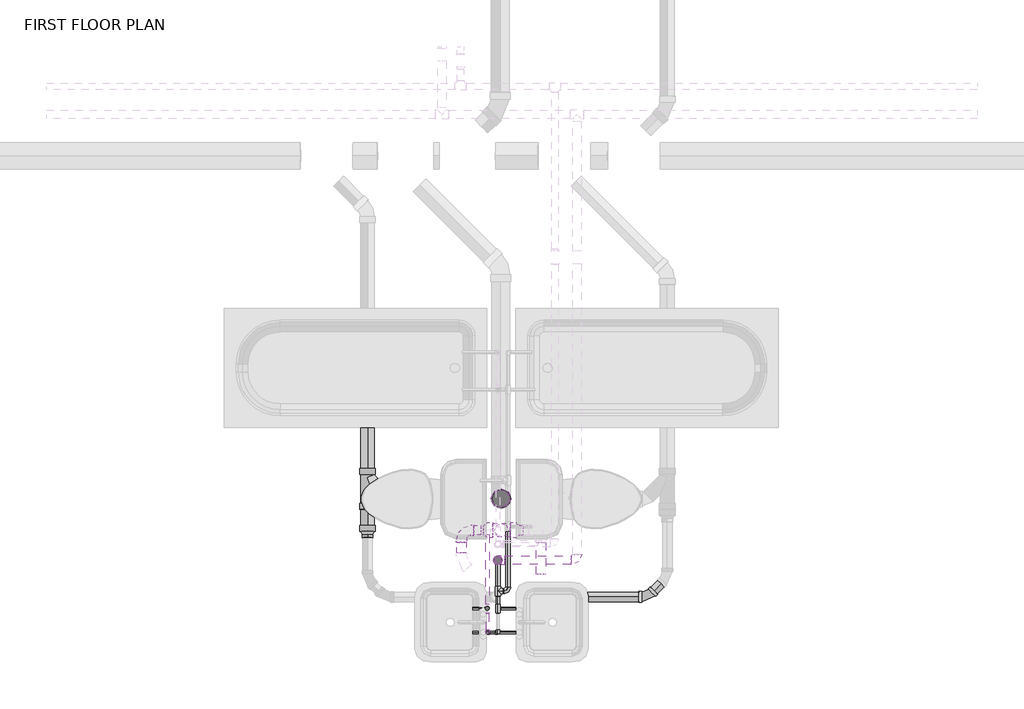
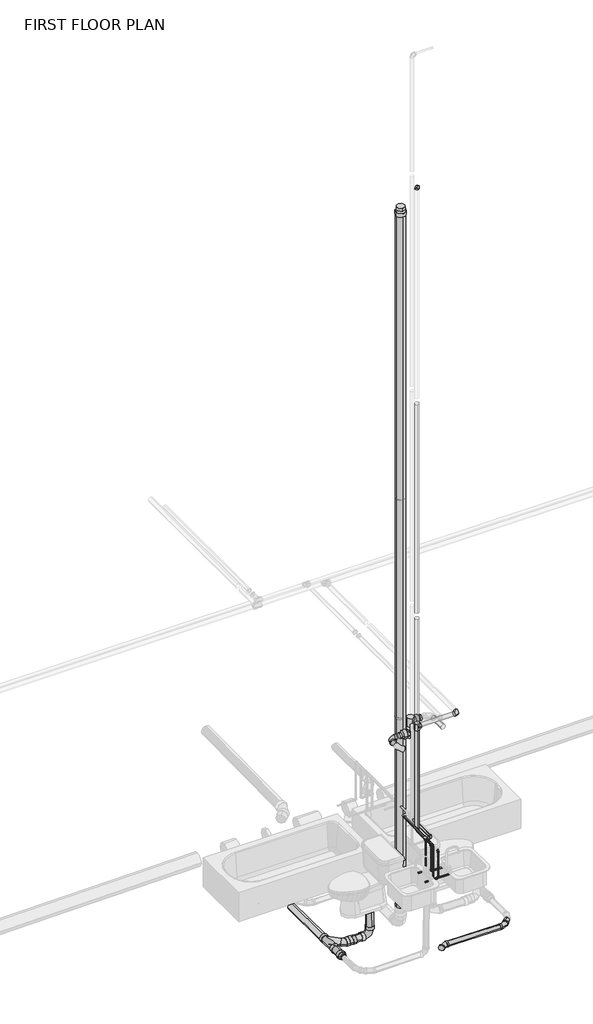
# One storey, part 21 of 29: 33 pipe fittings, 30 pipe segments.
"""IFC4 building model written with IfcOpenShell, lengths in millimetres."""

from ifc_helpers import new_model, si_unit, point, frame, frame_2d, origin, place, context, project, spatial, circle_curve, trimmed, segment, composite_curve, outline, extrude, transform, mapped, element, save
from components import bend_pvc_sch_40_dwv_standard_e6a60135, bend_pvc_sch_40_dwv_standard_f2f5988a, bend_pvc_sch_40_dwv_standard_e264ddd1, bend_pvc_sch_40_dwv_standard_49f8c181, pipe_elbow_copper_k_aad62f2d, pipe_elbow_copper_k_a25a5501, pipe_elbow_copper_k_cd8a373b, pipe_elbow_copper_k_15b800b4, pipe_tee_copper_k_36278b8a, pipe_tee_copper_k_ee363fbf, pipe_tee_copper_k_feafe2f1, pipe_tee_copper_k_8ae7f23d, pipe_tee_standard_047cd2b9, pipe_transition_copper_k_859ff352, pipe_transition_copper_k_a6a91236, pipe_transition_copper_k_b4f16853, pipe_transition_copper_k_5e01dc24, reducer_pvc_sch_40_dwv_standard_464ee0c2, reducer_pvc_sch_40_dwv_standard_80dbeaf5, reducer_pvc_sch_40_dwv_standard_58c00515, standard_544587f6

model = new_model("IFC4")

# Units and contexts
model_context = context("Model", 3, world=origin())
ifc_project = project(units=[si_unit("LENGTHUNIT", "METRE", prefix="MILLI")], contexts=[model_context])

# Site, building, storey
site = spatial("IfcSite", under=ifc_project)
building = spatial("IfcBuilding", under=site)
storey = spatial("IfcBuildingStorey", under=building, Name="FIRST FLOOR PLAN", Elevation=0.0)

# Pipe fittings
placement = place(None, origin())
bend_pvc_sch_40_dwv_standard_shape = bend_pvc_sch_40_dwv_standard_e6a60135(model_context)
element("IfcPipeFitting", 1, ObjectType="Bend - PVC - Sch 40 - DWV : Standard", at=placement, inside=storey, context=model_context, shape_type="MappedRepresentation", body=[
    mapped(bend_pvc_sch_40_dwv_standard_shape, transform((16553.882609, 3320.1599838, -368.5625196), x_axis=(0.0, -5.143823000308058e-07, -0.9999999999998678), y_axis=(-1.0, -5.358148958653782e-09, 0.0), z_axis=(-5.358148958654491e-09, 0.9999999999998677, -5.143823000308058e-07))),
])
bend_pvc_sch_40_dwv_standard_2_shape = bend_pvc_sch_40_dwv_standard_f2f5988a(model_context)
element("IfcPipeFitting", 2, ObjectType="Bend - PVC - Sch 40 - DWV : Standard", at=placement, inside=storey, context=model_context, shape_type="MappedRepresentation", body=[
    mapped(bend_pvc_sch_40_dwv_standard_2_shape, transform((17109.4488422, 2694.6205256, -333.7380933), x_axis=(-0.9999455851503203, 0.0, 0.010432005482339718), y_axis=(-1.6591869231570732e-07, -0.9999999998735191, -1.590390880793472e-05), z_axis=(0.010432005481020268, -1.5904774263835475e-05, 0.9999455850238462))),
])
bend_pvc_sch_40_dwv_standard_3_shape = bend_pvc_sch_40_dwv_standard_e264ddd1(model_context)
element("IfcPipeFitting", 3, ObjectType="Bend - PVC - Sch 40 - DWV : Standard", at=placement, inside=storey, context=model_context, shape_type="MappedRepresentation", body=[
    mapped(bend_pvc_sch_40_dwv_standard_3_shape, transform((17876.748256, 2694.6205256, -341.7430006), x_axis=(-0.7070684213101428, -0.7070684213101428, 0.010416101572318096), y_axis=(0.7070681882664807, -0.7071320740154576, -0.004336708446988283), z_axis=(0.01043190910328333, 0.0042985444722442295, 0.99993634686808))),
])
bend_pvc_sch_40_dwv_standard_4_shape = bend_pvc_sch_40_dwv_standard_49f8c181(model_context)
element("IfcPipeFitting", 4, ObjectType="Bend - PVC - Sch 40 - DWV : Standard", at=placement, inside=storey, context=model_context, shape_type="MappedRepresentation", body=[
    mapped(bend_pvc_sch_40_dwv_standard_4_shape, transform((16687.9084875, 3120.4093278, 2286.0408745), x_axis=(0.0, 0.9999999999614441, -8.78134569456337e-06), y_axis=(-1.0000000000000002, 0.0, 0.0), z_axis=(0.0, 8.78134569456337e-06, 0.9999999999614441))),
])
pipe_elbow_copper_k_shape = pipe_elbow_copper_k_aad62f2d(model_context)
element("IfcPipeFitting", 5, ObjectType="Pipe Elbow : Copper- K", at=placement, inside=storey, context=model_context, shape_type="MappedRepresentation", body=[
    mapped(pipe_elbow_copper_k_shape, transform((16920.4834875, 2468.1949561, 1117.6), x_axis=(0.0, -1.0, 0.0), y_axis=(0.0, 0.0, -1.0), z_axis=(1.0, 0.0, 0.0))),
])
element("IfcPipeFitting", 6, ObjectType="Pipe Elbow : Copper- K", at=placement, inside=storey, context=model_context, shape_type="MappedRepresentation", body=[
    mapped(pipe_elbow_copper_k_shape, transform((16920.4834875, 2468.1949561, 762.0), x_axis=(0.0, 0.0, -1.0), y_axis=(-1.0, 0.0, 0.0), z_axis=(0.0, 1.0, 0.0))),
])
element("IfcPipeFitting", 7, ObjectType="Pipe Elbow : Copper- K", at=placement, inside=storey, context=model_context, shape_type="MappedRepresentation", body=[
    mapped(pipe_elbow_copper_k_shape, transform((16920.4834875, 2620.8535326, 762.0), x_axis=(0.0, 0.0, -1.0), y_axis=(1.0, 0.0, 0.0), z_axis=(0.0, -1.0, 0.0))),
])
element("IfcPipeFitting", 8, ObjectType="Pipe Elbow : Copper- K", at=placement, inside=storey, context=model_context, shape_type="MappedRepresentation", body=[
    mapped(pipe_elbow_copper_k_shape, transform((16852.2209875, 2468.1949561, 1219.2), x_axis=(0.0, -1.0, 0.0), y_axis=(0.0, 0.0, -1.0), z_axis=(1.0, 0.0, 0.0))),
])
element("IfcPipeFitting", 9, ObjectType="Pipe Elbow : Copper- K", at=placement, inside=storey, context=model_context, shape_type="MappedRepresentation", body=[
    mapped(pipe_elbow_copper_k_shape, transform((16852.2209875, 2468.1949561, 762.0), x_axis=(0.0, 0.0, -1.0), y_axis=(1.0, 0.0, 0.0), z_axis=(0.0, -1.0, 0.0))),
])
element("IfcPipeFitting", 10, ObjectType="Pipe Elbow : Copper- K", at=placement, inside=storey, context=model_context, shape_type="MappedRepresentation", body=[
    mapped(pipe_elbow_copper_k_shape, transform((16852.2209875, 2620.8535326, 792.4601563), x_axis=(0.0, 0.0, -1.0), y_axis=(-1.0, 0.0, 0.0), z_axis=(0.0, 1.0, 0.0))),
])
pipe_elbow_copper_k_2_shape = pipe_elbow_copper_k_a25a5501(model_context)
element("IfcPipeFitting", 11, ObjectType="Pipe Elbow : Copper- K", at=placement, inside=storey, context=model_context, shape_type="MappedRepresentation", body=[
    mapped(pipe_elbow_copper_k_2_shape, transform((16983.9834875, 2733.1182853, 1117.6), x_axis=(1.0, 0.0, 0.0), y_axis=(0.0, 1.0, 0.0), z_axis=(0.0, 0.0, 1.0))),
])
element("IfcPipeFitting", 12, ObjectType="Pipe Elbow : Copper- K", at=placement, inside=storey, context=model_context, shape_type="MappedRepresentation", body=[
    mapped(pipe_elbow_copper_k_2_shape, transform((16920.4834875, 2929.398977, 9652.0), x_axis=(0.0, 0.0, 1.0), y_axis=(0.0, -1.0, 0.0), z_axis=(1.0, 0.0, 0.0))),
])
pipe_elbow_copper_k_3_shape = pipe_elbow_copper_k_cd8a373b(model_context)
element("IfcPipeFitting", 13, ObjectType="Pipe Elbow : Copper- K", at=placement, inside=storey, context=model_context, shape_type="MappedRepresentation", body=[
    mapped(pipe_elbow_copper_k_3_shape, transform((16920.4834875, 2929.398977, 1117.6), x_axis=(0.0, 1.0, 0.0), y_axis=(0.0, 0.0, 1.0), z_axis=(1.0, 0.0, 0.0))),
])
pipe_elbow_copper_k_4_shape = pipe_elbow_copper_k_15b800b4(model_context)
element("IfcPipeFitting", 14, ObjectType="Pipe Elbow : Copper- K", at=placement, inside=storey, context=model_context, shape_type="MappedRepresentation", body=[
    mapped(pipe_elbow_copper_k_4_shape, transform((17424.5084875, 2929.8751195, 2490.6882812), x_axis=(0.9999996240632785, 0.0008671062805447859, 0.0), y_axis=(-0.0008671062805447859, 0.9999996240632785, 0.0), z_axis=(0.0, 0.0, 1.0))),
])
pipe_tee_copper_k_shape = pipe_tee_copper_k_36278b8a(model_context)
element("IfcPipeFitting", 15, ObjectType="Pipe Tee : Copper- K", at=placement, inside=storey, context=model_context, shape_type="MappedRepresentation", body=[
    mapped(pipe_tee_copper_k_shape, transform((16920.4834875, 2929.4752425, 2490.6882812), x_axis=(0.0, 5.554300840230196e-05, 0.9999999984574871), y_axis=(-1.0, 0.0, 0.0), z_axis=(0.0, -0.9999999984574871, 5.554300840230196e-05))),
])
pipe_tee_copper_k_2_shape = pipe_tee_copper_k_ee363fbf(model_context)
element("IfcPipeFitting", 16, ObjectType="Pipe Tee : Copper- K", at=placement, inside=storey, context=model_context, shape_type="MappedRepresentation", body=[
    mapped(pipe_tee_copper_k_2_shape, transform((16920.4834875, 2620.8535326, 1117.6), x_axis=(0.0, 1.0, 0.0), y_axis=(0.0, 0.0, 1.0), z_axis=(1.0, 0.0, 0.0))),
])
element("IfcPipeFitting", 17, ObjectType="Pipe Tee : Copper- K", at=placement, inside=storey, context=model_context, shape_type="MappedRepresentation", body=[
    mapped(pipe_tee_copper_k_2_shape, transform((16852.2209875, 2620.8535326, 1219.2), x_axis=(0.0, 1.0, 0.0), y_axis=(0.0, 0.0, 1.0), z_axis=(1.0, 0.0, 0.0))),
])
pipe_tee_copper_k_3_shape = pipe_tee_copper_k_feafe2f1(model_context)
element("IfcPipeFitting", 18, ObjectType="Pipe Tee : Copper- K", at=placement, inside=storey, context=model_context, shape_type="MappedRepresentation", body=[
    mapped(pipe_tee_copper_k_3_shape, transform((16920.4834875, 2733.1182853, 1117.6), x_axis=(0.0, 1.0, 0.0), y_axis=(-1.0, 0.0, 0.0), z_axis=(0.0, 0.0, 1.0))),
])
pipe_tee_copper_k_4_shape = pipe_tee_copper_k_8ae7f23d(model_context)
element("IfcPipeFitting", 19, ObjectType="Pipe Tee : Standard", at=placement, inside=storey, context=model_context, shape_type="MappedRepresentation", body=[
    mapped(pipe_tee_copper_k_4_shape, transform((16944.2702977, 3120.5512471, 2285.9990858), x_axis=(0.0, 0.0, 1.0), y_axis=(-1.0, 0.0, 0.0), z_axis=(0.0, -1.0, 0.0))),
])
pipe_tee_standard_shape = pipe_tee_standard_047cd2b9(model_context)
element("IfcPipeFitting", 20, ObjectType="Pipe Tee : Standard", at=placement, inside=storey, context=model_context, shape_type="MappedRepresentation", body=[
    mapped(pipe_tee_standard_shape, transform((16944.2702977, 3120.5512471, 2438.7627068), x_axis=(0.0, 0.0, 1.0), y_axis=(1.0, 0.0, 0.0), z_axis=(0.0, 1.0, 0.0))),
])
pipe_transition_copper_k_shape = pipe_transition_copper_k_859ff352(model_context)
element("IfcPipeFitting", 21, ObjectType="Pipe Transition : Copper- K", at=placement, inside=storey, context=model_context, shape_type="MappedRepresentation", body=[
    mapped(pipe_transition_copper_k_shape, transform((16920.4834875, 2620.8535326, 1090.6125), x_axis=(0.0, 0.0, -1.0), y_axis=(0.0, 1.0, 0.0), z_axis=(1.0, 0.0, 0.0))),
])
element("IfcPipeFitting", 22, ObjectType="Pipe Transition : Copper- K", at=placement, inside=storey, context=model_context, shape_type="MappedRepresentation", body=[
    mapped(pipe_transition_copper_k_shape, transform((16920.4834875, 2593.8660326, 1117.6), x_axis=(0.0, -1.0, 0.0), y_axis=(1.0, 0.0, 0.0), z_axis=(0.0, 0.0, 1.0))),
])
element("IfcPipeFitting", 23, ObjectType="Pipe Transition : Copper- K", at=placement, inside=storey, context=model_context, shape_type="MappedRepresentation", body=[
    mapped(pipe_transition_copper_k_shape, transform((16852.2209875, 2620.8535326, 1192.2125), x_axis=(0.0, 0.0, -1.0), y_axis=(0.0, -1.0, 0.0), z_axis=(-1.0, 0.0, 0.0))),
])
element("IfcPipeFitting", 24, ObjectType="Pipe Transition : Copper- K", at=placement, inside=storey, context=model_context, shape_type="MappedRepresentation", body=[
    mapped(pipe_transition_copper_k_shape, transform((16852.2209875, 2593.8660326, 1219.2), x_axis=(0.0, -1.0, 0.0), y_axis=(1.0, 0.0, 0.0), z_axis=(0.0, 0.0, 1.0))),
])
pipe_transition_copper_k_2_shape = pipe_transition_copper_k_a6a91236(model_context)
element("IfcPipeFitting", 25, ObjectType="Pipe Transition : Copper- K", at=placement, inside=storey, context=model_context, shape_type="MappedRepresentation", body=[
    mapped(pipe_transition_copper_k_2_shape, transform((16920.4834875, 2929.398977, 9614.69375), x_axis=(0.0, 0.0, 1.0), y_axis=(0.0, 1.0, 0.0), z_axis=(-1.0, 0.0, 0.0))),
])
pipe_transition_copper_k_3_shape = pipe_transition_copper_k_b4f16853(model_context)
element("IfcPipeFitting", 26, ObjectType="Pipe Transition : Copper- K", at=placement, inside=storey, context=model_context, shape_type="MappedRepresentation", body=[
    mapped(pipe_transition_copper_k_3_shape, transform((16920.4834875, 2702.9557853, 1117.6), x_axis=(0.0, -1.0, 0.0), y_axis=(1.0, 0.0, 0.0), z_axis=(0.0, 0.0, 1.0))),
])
pipe_transition_copper_k_4_shape = pipe_transition_copper_k_5e01dc24(model_context)
element("IfcPipeFitting", 27, ObjectType="Pipe Transition : Copper- K", at=placement, inside=storey, context=model_context, shape_type="MappedRepresentation", body=[
    mapped(pipe_transition_copper_k_4_shape, transform((16920.4834875, 2929.4002996, 1141.4111774), x_axis=(0.0, 5.554300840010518e-05, 0.9999999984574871), y_axis=(0.0, 0.9999999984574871, -5.554300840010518e-05), z_axis=(-1.0, 0.0, 0.0))),
])
reducer_pvc_sch_40_dwv_standard_shape = reducer_pvc_sch_40_dwv_standard_464ee0c2(model_context)
element("IfcPipeFitting", 28, ObjectType="Reducer - PVC - Sch 40 - DWV : Standard", at=placement, inside=storey, context=model_context, shape_type="MappedRepresentation", body=[
    mapped(reducer_pvc_sch_40_dwv_standard_shape, transform((16888.7077977, 3120.5512471, 2285.9990858), x_axis=(-1.0, 0.0, 0.0), y_axis=(0.0, -1.0, 0.0), z_axis=(0.0, 0.0, 1.0))),
])
element("IfcPipeFitting", 29, ObjectType="Reducer - PVC - Sch 40 - DWV : Standard", at=placement, inside=storey, context=model_context, shape_type="MappedRepresentation", body=[
    mapped(reducer_pvc_sch_40_dwv_standard_shape, transform((16999.8327408, 3120.5512471, 2438.6831648), x_axis=(0.9999989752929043, 0.0, -0.001431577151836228), y_axis=(0.0, 1.0000000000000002, 0.0), z_axis=(0.001431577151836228, 0.0, 0.9999989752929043))),
])
element("IfcPipeFitting", 30, ObjectType="Reducer - PVC - Sch 40 - DWV : Standard", at=placement, inside=storey, context=model_context, shape_type="MappedRepresentation", body=[
    mapped(reducer_pvc_sch_40_dwv_standard_shape, transform((16087.4645224, 3152.9789417, -368.9795038), x_axis=(0.0, -0.9999457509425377, 0.010416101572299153), y_axis=(1.0, 0.0, 0.0), z_axis=(0.0, 0.010416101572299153, 0.9999457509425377))),
])
reducer_pvc_sch_40_dwv_standard_2_shape = reducer_pvc_sch_40_dwv_standard_80dbeaf5(model_context)
element("IfcPipeFitting", 31, ObjectType="Reducer - PVC - Sch 40 - DWV : Standard", at=placement, inside=storey, context=model_context, shape_type="MappedRepresentation", body=[
    mapped(reducer_pvc_sch_40_dwv_standard_2_shape, transform((16285.0912017, 3320.1599639, -368.662361), x_axis=(0.9999457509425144, 2.1621181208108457e-07, 0.01041610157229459), y_axis=(0.00010827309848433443, 0.9999457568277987, -0.010414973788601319), z_axis=(-0.010415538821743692, 0.010415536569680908, 0.9998915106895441))),
])
reducer_pvc_sch_40_dwv_standard_3_shape = reducer_pvc_sch_40_dwv_standard_58c00515(model_context)
element("IfcPipeFitting", 32, ObjectType="Reducer - PVC - Sch 40 - DWV : Standard", at=placement, inside=storey, context=model_context, shape_type="MappedRepresentation", body=[
    mapped(reducer_pvc_sch_40_dwv_standard_3_shape, transform((16941.9266198, 3321.8387881, 9032.4261106), x_axis=(6.185067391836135e-08, 0.0, 0.9999999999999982), y_axis=(-0.9999999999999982, 0.0, 6.185067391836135e-08), z_axis=(0.0, -1.0, 0.0))),
])
standard_shape = standard_544587f6(model_context)
element("IfcPipeFitting", 33, ObjectType="GES Wye Combination with 8th Bend - PVC - Sch 40 - DWV : Standard", at=placement, inside=storey, context=model_context, shape_type="MappedRepresentation", body=[
    mapped(standard_shape, transform((16087.4645224, 3320.1599211, -370.7209723), x_axis=(0.0, -0.9999457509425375, 0.010416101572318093), y_axis=(-0.9999457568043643, -0.00010848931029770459, -0.010414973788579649), z_axis=(0.010415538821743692, -0.010415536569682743, -0.999891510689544))),
])

# Pipe segments
element("IfcPipeSegment", 34, ObjectType="Copper", at=placement, inside=storey, context=model_context, shape_type="SweptSolid", body=[
    extrude(outline(composite_curve([segment(trimmed(circle_curve(frame_2d((0.0, 26.9875)), 26.9875), [point((-26.9875, 26.9875))], [point((0.0, 53.975))], False, "CARTESIAN"), True, "CONTINUOUS"), segment(trimmed(circle_curve(frame_2d((0.0, 26.9875)), 26.9875), [point((0.0, 53.975))], [point((26.9874999, 26.9875))], False, "CARTESIAN"), True, "CONTINUOUS"), segment(trimmed(circle_curve(frame_2d((0.0, 26.9875)), 26.9875), [point((26.9874999, 26.9875))], [point((0.0, 0.0))], False, "CARTESIAN"), True, "CONTINUOUS"), segment(trimmed(circle_curve(frame_2d((0.0, 26.9875)), 26.9875), [point((0.0, 0.0))], [point((-26.9875, 26.9875))], False, "CARTESIAN"), True, "CONTINUOUS")], self_intersect=False)), frame((16963.3459875, 2929.4752425, 2463.7007812), z_axis=(0.9999996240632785, 0.0008671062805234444, 0.0), x_axis=(-0.0008671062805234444, 0.9999996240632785, 0.0)), (0.0, 0.0, 1.0), 424.6818199),
])
element("IfcPipeSegment", 35, ObjectType="Copper", at=placement, inside=storey, context=model_context, shape_type="SweptSolid", body=[
    extrude(outline(composite_curve([segment(trimmed(circle_curve(frame_2d((2468.1949561, 762.0)), 7.9375), [point((2476.1324561, 762.0))], [point((2468.1949561, 754.0625))], False, "CARTESIAN"), True, "CONTINUOUS"), segment(trimmed(circle_curve(frame_2d((2468.1949561, 762.0)), 7.9375), [point((2468.1949561, 754.0625))], [point((2460.2574561, 762.0))], False, "CARTESIAN"), True, "CONTINUOUS"), segment(trimmed(circle_curve(frame_2d((2468.1949561, 762.0)), 7.9375), [point((2460.2574561, 762.0))], [point((2468.1949561, 769.9375))], False, "CARTESIAN"), True, "CONTINUOUS"), segment(trimmed(circle_curve(frame_2d((2468.1949561, 762.0)), 7.9375), [point((2468.1949561, 769.9375))], [point((2476.1324561, 762.0))], False, "CARTESIAN"), True, "CONTINUOUS")], self_intersect=False)), frame((16758.5584875, 0.0, 0.0), z_axis=(1.0, 0.0, 0.0), x_axis=(0.0, 1.0, 0.0)), (0.0, 0.0, 1.0), 144.4625),
])
element("IfcPipeSegment", 36, ObjectType="Copper", at=placement, inside=storey, context=model_context, shape_type="SweptSolid", body=[
    extrude(outline(composite_curve([segment(trimmed(circle_curve(frame_2d((16920.4834875, 2468.1949561)), 7.9375), [point((16928.4209875, 2468.1949561))], [point((16920.4834875, 2460.2574561))], False, "CARTESIAN"), True, "CONTINUOUS"), segment(trimmed(circle_curve(frame_2d((16920.4834875, 2468.1949561)), 7.9375), [point((16920.4834875, 2460.2574561))], [point((16912.5459875, 2468.1949561))], False, "CARTESIAN"), True, "CONTINUOUS"), segment(trimmed(circle_curve(frame_2d((16920.4834875, 2468.1949561)), 7.9375), [point((16912.5459875, 2468.1949561))], [point((16920.4834875, 2476.1324561))], False, "CARTESIAN"), True, "CONTINUOUS"), segment(trimmed(circle_curve(frame_2d((16920.4834875, 2468.1949561)), 7.9375), [point((16920.4834875, 2476.1324561))], [point((16928.4209875, 2468.1949561))], False, "CARTESIAN"), True, "CONTINUOUS")], self_intersect=False)), frame((0.0, 0.0, 779.4625), z_axis=(0.0, 0.0, 1.0), x_axis=(1.0, 0.0, 0.0)), (0.0, 0.0, 1.0), 320.675),
])
element("IfcPipeSegment", 37, ObjectType="Copper", at=placement, inside=storey, context=model_context, shape_type="SweptSolid", body=[
    extrude(outline(composite_curve([segment(trimmed(circle_curve(frame_2d((2620.8535326, 762.0)), 7.9375), [point((2612.9160326, 762.0))], [point((2620.8535326, 769.9375))], False, "CARTESIAN"), True, "CONTINUOUS"), segment(trimmed(circle_curve(frame_2d((2620.8535326, 762.0)), 7.9375), [point((2620.8535326, 769.9375))], [point((2628.7910326, 762.0))], False, "CARTESIAN"), True, "CONTINUOUS"), segment(trimmed(circle_curve(frame_2d((2620.8535326, 762.0)), 7.9375), [point((2628.7910326, 762.0))], [point((2620.8535326, 754.0625))], False, "CARTESIAN"), True, "CONTINUOUS"), segment(trimmed(circle_curve(frame_2d((2620.8535326, 762.0)), 7.9375), [point((2620.8535326, 754.0625))], [point((2612.9160326, 762.0))], False, "CARTESIAN"), True, "CONTINUOUS")], self_intersect=False)), frame((16937.9459875, 0.0, 0.0), z_axis=(1.0, 0.0, 0.0), x_axis=(0.0, 1.0, 0.0)), (0.0, 0.0, 1.0), 133.35),
])
element("IfcPipeSegment", 38, ObjectType="Copper", at=placement, inside=storey, context=model_context, shape_type="SweptSolid", body=[
    extrude(outline(composite_curve([segment(trimmed(circle_curve(frame_2d((16920.4834875, 2620.8535326)), 7.9375), [point((16928.4209875, 2620.8535326))], [point((16920.4834875, 2612.9160326))], False, "CARTESIAN"), True, "CONTINUOUS"), segment(trimmed(circle_curve(frame_2d((16920.4834875, 2620.8535326)), 7.9375), [point((16920.4834875, 2612.9160326))], [point((16912.5459875, 2620.8535326))], False, "CARTESIAN"), True, "CONTINUOUS"), segment(trimmed(circle_curve(frame_2d((16920.4834875, 2620.8535326)), 7.9375), [point((16912.5459875, 2620.8535326))], [point((16920.4834875, 2628.7910326))], False, "CARTESIAN"), True, "CONTINUOUS"), segment(trimmed(circle_curve(frame_2d((16920.4834875, 2620.8535326)), 7.9375), [point((16920.4834875, 2628.7910326))], [point((16928.4209875, 2620.8535326))], False, "CARTESIAN"), True, "CONTINUOUS")], self_intersect=False)), frame((0.0, 0.0, 779.4625), z_axis=(0.0, 0.0, 1.0), x_axis=(1.0, 0.0, 0.0)), (0.0, 0.0, 1.0), 305.59375),
])
element("IfcPipeSegment", 39, ObjectType="Copper", at=placement, inside=storey, context=model_context, shape_type="SweptSolid", body=[
    extrude(outline(composite_curve([segment(trimmed(circle_curve(frame_2d((1117.6, 16920.4834875)), 11.1125), [point((1117.6, 16909.3709875))], [point((1106.4875, 16920.4834875))], False, "CARTESIAN"), True, "CONTINUOUS"), segment(trimmed(circle_curve(frame_2d((1117.6, 16920.4834875)), 11.1125), [point((1106.4875, 16920.4834875))], [point((1117.6, 16931.5959875))], False, "CARTESIAN"), True, "CONTINUOUS"), segment(trimmed(circle_curve(frame_2d((1117.6, 16920.4834875)), 11.1125), [point((1117.6, 16931.5959875))], [point((1128.7125, 16920.4834875))], False, "CARTESIAN"), True, "CONTINUOUS"), segment(trimmed(circle_curve(frame_2d((1117.6, 16920.4834875)), 11.1125), [point((1128.7125, 16920.4834875))], [point((1117.6, 16909.3709875))], False, "CARTESIAN"), True, "CONTINUOUS")], self_intersect=False)), frame((0.0, 2647.8410326, 0.0), z_axis=(0.0, 1.0, 0.0), x_axis=(0.0, 0.0, 1.0)), (0.0, 0.0, 1.0), 47.9710027),
])
element("IfcPipeSegment", 40, ObjectType="Copper", at=placement, inside=storey, context=model_context, shape_type="SweptSolid", body=[
    extrude(outline(composite_curve([segment(trimmed(circle_curve(frame_2d((1219.2, 16852.2209875)), 7.9375), [point((1219.2, 16844.2834875))], [point((1211.2625, 16852.2209875))], False, "CARTESIAN"), True, "CONTINUOUS"), segment(trimmed(circle_curve(frame_2d((1219.2, 16852.2209875)), 7.9375), [point((1211.2625, 16852.2209875))], [point((1219.2, 16860.1584875))], False, "CARTESIAN"), True, "CONTINUOUS"), segment(trimmed(circle_curve(frame_2d((1219.2, 16852.2209875)), 7.9375), [point((1219.2, 16860.1584875))], [point((1227.1375, 16852.2209875))], False, "CARTESIAN"), True, "CONTINUOUS"), segment(trimmed(circle_curve(frame_2d((1219.2, 16852.2209875)), 7.9375), [point((1227.1375, 16852.2209875))], [point((1219.2, 16844.2834875))], False, "CARTESIAN"), True, "CONTINUOUS")], self_intersect=False)), frame((0.0, 2485.6574561, 0.0), z_axis=(0.0, 1.0, 0.0), x_axis=(0.0, 0.0, 1.0)), (0.0, 0.0, 1.0), 102.6523264),
])
element("IfcPipeSegment", 41, ObjectType="Copper", at=placement, inside=storey, context=model_context, shape_type="SweptSolid", body=[
    extrude(outline(composite_curve([segment(trimmed(circle_curve(frame_2d((2468.1949561, 762.0)), 7.9375), [point((2460.2574561, 762.0))], [point((2468.1949561, 769.9375))], False, "CARTESIAN"), True, "CONTINUOUS"), segment(trimmed(circle_curve(frame_2d((2468.1949561, 762.0)), 7.9375), [point((2468.1949561, 769.9375))], [point((2476.1324561, 762.0))], False, "CARTESIAN"), True, "CONTINUOUS"), segment(trimmed(circle_curve(frame_2d((2468.1949561, 762.0)), 7.9375), [point((2476.1324561, 762.0))], [point((2468.1949561, 754.0625))], False, "CARTESIAN"), True, "CONTINUOUS"), segment(trimmed(circle_curve(frame_2d((2468.1949561, 762.0)), 7.9375), [point((2468.1949561, 754.0625))], [point((2460.2574561, 762.0))], False, "CARTESIAN"), True, "CONTINUOUS")], self_intersect=False)), frame((16869.6834875, 0.0, 0.0), z_axis=(1.0, 0.0, 0.0), x_axis=(0.0, 1.0, 0.0)), (0.0, 0.0, 1.0), 192.0875),
])
element("IfcPipeSegment", 42, ObjectType="Copper", at=placement, inside=storey, context=model_context, shape_type="SweptSolid", body=[
    extrude(outline(composite_curve([segment(trimmed(circle_curve(frame_2d((16852.2209875, 2468.1949561)), 7.9375), [point((16860.1584875, 2468.1949561))], [point((16852.2209875, 2460.2574561))], False, "CARTESIAN"), True, "CONTINUOUS"), segment(trimmed(circle_curve(frame_2d((16852.2209875, 2468.1949561)), 7.9375), [point((16852.2209875, 2460.2574561))], [point((16844.2834875, 2468.1949561))], False, "CARTESIAN"), True, "CONTINUOUS"), segment(trimmed(circle_curve(frame_2d((16852.2209875, 2468.1949561)), 7.9375), [point((16844.2834875, 2468.1949561))], [point((16852.2209875, 2476.1324561))], False, "CARTESIAN"), True, "CONTINUOUS"), segment(trimmed(circle_curve(frame_2d((16852.2209875, 2468.1949561)), 7.9375), [point((16852.2209875, 2476.1324561))], [point((16860.1584875, 2468.1949561))], False, "CARTESIAN"), True, "CONTINUOUS")], self_intersect=False)), frame((0.0, 0.0, 779.4625), z_axis=(0.0, 0.0, 1.0), x_axis=(1.0, 0.0, 0.0)), (0.0, 0.0, 1.0), 422.275),
])
element("IfcPipeSegment", 43, ObjectType="Copper", at=placement, inside=storey, context=model_context, shape_type="SweptSolid", body=[
    extrude(outline(composite_curve([segment(trimmed(circle_curve(frame_2d((2620.8535326, 792.4601562)), 7.9375), [point((2628.7910326, 792.4601562))], [point((2620.8535326, 784.5226562))], False, "CARTESIAN"), True, "CONTINUOUS"), segment(trimmed(circle_curve(frame_2d((2620.8535326, 792.4601562)), 7.9375), [point((2620.8535326, 784.5226562))], [point((2612.9160326, 792.4601562))], False, "CARTESIAN"), True, "CONTINUOUS"), segment(trimmed(circle_curve(frame_2d((2620.8535326, 792.4601562)), 7.9375), [point((2612.9160326, 792.4601562))], [point((2620.8535326, 800.3976562))], False, "CARTESIAN"), True, "CONTINUOUS"), segment(trimmed(circle_curve(frame_2d((2620.8535326, 792.4601562)), 7.9375), [point((2620.8535326, 800.3976562))], [point((2628.7910326, 792.4601562))], False, "CARTESIAN"), True, "CONTINUOUS")], self_intersect=False)), frame((16758.5584875, 0.0, 0.0), z_axis=(1.0, 0.0, 0.0), x_axis=(0.0, 1.0, 0.0)), (0.0, 0.0, 1.0), 76.2),
])
element("IfcPipeSegment", 44, ObjectType="Copper", at=placement, inside=storey, context=model_context, shape_type="SweptSolid", body=[
    extrude(outline(composite_curve([segment(trimmed(circle_curve(frame_2d((16852.2209875, 2620.8535326)), 7.9375), [point((16860.1584875, 2620.8535326))], [point((16852.2209875, 2612.9160326))], False, "CARTESIAN"), True, "CONTINUOUS"), segment(trimmed(circle_curve(frame_2d((16852.2209875, 2620.8535326)), 7.9375), [point((16852.2209875, 2612.9160326))], [point((16844.2834875, 2620.8535326))], False, "CARTESIAN"), True, "CONTINUOUS"), segment(trimmed(circle_curve(frame_2d((16852.2209875, 2620.8535326)), 7.9375), [point((16844.2834875, 2620.8535326))], [point((16852.2209875, 2628.7910326))], False, "CARTESIAN"), True, "CONTINUOUS"), segment(trimmed(circle_curve(frame_2d((16852.2209875, 2620.8535326)), 7.9375), [point((16852.2209875, 2628.7910326))], [point((16860.1584875, 2620.8535326))], False, "CARTESIAN"), True, "CONTINUOUS")], self_intersect=False)), frame((0.0, 0.0, 809.9226562), z_axis=(0.0, 0.0, 1.0), x_axis=(1.0, 0.0, 0.0)), (0.0, 0.0, 1.0), 376.7335937),
])
element("IfcPipeSegment", 45, ObjectType="Copper", at=placement, inside=storey, context=model_context, shape_type="SweptSolid", body=[
    extrude(outline(composite_curve([segment(trimmed(circle_curve(frame_2d((1219.2, 16852.2209875)), 11.1125), [point((1219.2, 16841.1084875))], [point((1208.0875, 16852.2209875))], False, "CARTESIAN"), True, "CONTINUOUS"), segment(trimmed(circle_curve(frame_2d((1219.2, 16852.2209875)), 11.1125), [point((1208.0875, 16852.2209875))], [point((1219.2, 16863.3334875))], False, "CARTESIAN"), True, "CONTINUOUS"), segment(trimmed(circle_curve(frame_2d((1219.2, 16852.2209875)), 11.1125), [point((1219.2, 16863.3334875))], [point((1230.3125, 16852.2209875))], False, "CARTESIAN"), True, "CONTINUOUS"), segment(trimmed(circle_curve(frame_2d((1219.2, 16852.2209875)), 11.1125), [point((1230.3125, 16852.2209875))], [point((1219.2, 16841.1084875))], False, "CARTESIAN"), True, "CONTINUOUS")], self_intersect=False)), frame((0.0, 2647.8410326, 0.0), z_axis=(0.0, 1.0, 0.0), x_axis=(0.0, 0.0, 1.0)), (0.0, 0.0, 1.0), 446.7666062),
])
element("IfcPipeSegment", 46, ObjectType="Copper", at=placement, inside=storey, context=model_context, shape_type="SweptSolid", body=[
    extrude(outline(composite_curve([segment(trimmed(circle_curve(frame_2d((2733.1182853, 1117.6)), 14.2875), [point((2718.8307853, 1117.6))], [point((2733.1182853, 1131.8875))], False, "CARTESIAN"), True, "CONTINUOUS"), segment(trimmed(circle_curve(frame_2d((2733.1182853, 1117.6)), 14.2875), [point((2733.1182853, 1131.8875))], [point((2747.4057853, 1117.6))], False, "CARTESIAN"), True, "CONTINUOUS"), segment(trimmed(circle_curve(frame_2d((2733.1182853, 1117.6)), 14.2875), [point((2747.4057853, 1117.6))], [point((2733.1182853, 1103.3125))], False, "CARTESIAN"), True, "CONTINUOUS"), segment(trimmed(circle_curve(frame_2d((2733.1182853, 1117.6)), 14.2875), [point((2733.1182853, 1103.3125))], [point((2718.8307853, 1117.6))], False, "CARTESIAN"), True, "CONTINUOUS")], self_intersect=False)), frame((16950.6459875, 0.0, 0.0), z_axis=(1.0, 0.0, 0.0), x_axis=(0.0, 1.0, 0.0)), (0.0, 0.0, 1.0), 9.525),
])
element("IfcPipeSegment", 47, ObjectType="Copper", at=placement, inside=storey, context=model_context, shape_type="SweptSolid", body=[
    extrude(outline(composite_curve([segment(trimmed(circle_curve(frame_2d((1117.6, 16920.4834875)), 14.2875), [point((1117.6, 16906.1959875))], [point((1103.3125, 16920.4834875))], False, "CARTESIAN"), True, "CONTINUOUS"), segment(trimmed(circle_curve(frame_2d((1117.6, 16920.4834875)), 14.2875), [point((1103.3125, 16920.4834875))], [point((1117.6, 16934.7709875))], False, "CARTESIAN"), True, "CONTINUOUS"), segment(trimmed(circle_curve(frame_2d((1117.6, 16920.4834875)), 14.2875), [point((1117.6, 16934.7709875))], [point((1131.8875, 16920.4834875))], False, "CARTESIAN"), True, "CONTINUOUS"), segment(trimmed(circle_curve(frame_2d((1117.6, 16920.4834875)), 14.2875), [point((1131.8875, 16920.4834875))], [point((1117.6, 16906.1959875))], False, "CARTESIAN"), True, "CONTINUOUS")], self_intersect=False)), frame((0.0, 2763.2807853, 0.0), z_axis=(0.0, 1.0, 0.0), x_axis=(0.0, 0.0, 1.0)), (0.0, 0.0, 1.0), 142.3070143),
])
element("IfcPipeSegment", 48, ObjectType="Copper", at=placement, inside=storey, context=model_context, shape_type="SweptSolid", body=[
    extrude(outline(composite_curve([segment(trimmed(circle_curve(frame_2d((1117.6, 16983.9834875)), 14.2875), [point((1117.6, 16998.2709875))], [point((1131.8875, 16983.9834875))], False, "CARTESIAN"), True, "CONTINUOUS"), segment(trimmed(circle_curve(frame_2d((1117.6, 16983.9834875)), 14.2875), [point((1131.8875, 16983.9834875))], [point((1117.6, 16969.6959875))], False, "CARTESIAN"), True, "CONTINUOUS"), segment(trimmed(circle_curve(frame_2d((1117.6, 16983.9834875)), 14.2875), [point((1117.6, 16969.6959875))], [point((1103.3125, 16983.9834875))], False, "CARTESIAN"), True, "CONTINUOUS"), segment(trimmed(circle_curve(frame_2d((1117.6, 16983.9834875)), 14.2875), [point((1103.3125, 16983.9834875))], [point((1117.6, 16998.2709875))], False, "CARTESIAN"), True, "CONTINUOUS")], self_intersect=False)), frame((0.0, 2756.9307853, 0.0), z_axis=(0.0, 1.0, 0.0), x_axis=(0.0, 0.0, 1.0)), (0.0, 0.0, 1.0), 357.7813964),
])
element("IfcPipeSegment", 49, ObjectType="Copper", at=placement, inside=storey, context=model_context, shape_type="SweptSolid", body=[
    extrude(outline(composite_curve([segment(trimmed(circle_curve(frame_2d((16920.4834875, 2929.398977)), 26.9875), [point((16893.4959875, 2929.398977))], [point((16920.4834875, 2956.386477))], False, "CARTESIAN"), True, "CONTINUOUS"), segment(trimmed(circle_curve(frame_2d((16920.4834875, 2929.398977)), 26.9875), [point((16920.4834875, 2956.386477))], [point((16947.4709875, 2929.398977))], False, "CARTESIAN"), True, "CONTINUOUS"), segment(trimmed(circle_curve(frame_2d((16920.4834875, 2929.398977)), 26.9875), [point((16947.4709875, 2929.398977))], [point((16920.4834875, 2902.411477))], False, "CARTESIAN"), True, "CONTINUOUS"), segment(trimmed(circle_curve(frame_2d((16920.4834875, 2929.398977)), 26.9875), [point((16920.4834875, 2902.411477))], [point((16893.4959875, 2929.398977))], False, "CARTESIAN"), True, "CONTINUOUS")], self_intersect=False)), frame((0.0, 0.0, 4005.2625), z_axis=(0.0, 0.0, 1.0), x_axis=(1.0, 0.0, 0.0)), (0.0, 0.0, 1.0), 2759.075),
])
element("IfcPipeSegment", 50, ObjectType="Copper", at=placement, inside=storey, context=model_context, shape_type="SweptSolid", body=[
    extrude(outline(composite_curve([segment(trimmed(circle_curve(frame_2d((0.0, 26.9874999)), 26.9875), [point((-26.9875, 26.9874999))], [point((0.0, 53.975))], False, "CARTESIAN"), True, "CONTINUOUS"), segment(trimmed(circle_curve(frame_2d((0.0, 26.9874999)), 26.9875), [point((0.0, 53.975))], [point((26.9875, 26.9874999))], False, "CARTESIAN"), True, "CONTINUOUS"), segment(trimmed(circle_curve(frame_2d((0.0, 26.9874999)), 26.9875), [point((26.9875, 26.9874999))], [point((0.0, 0.0))], False, "CARTESIAN"), True, "CONTINUOUS"), segment(trimmed(circle_curve(frame_2d((0.0, 26.9874999)), 26.9875), [point((0.0, 0.0))], [point((-26.9875, 26.9874999))], False, "CARTESIAN"), True, "CONTINUOUS")], self_intersect=False)), frame((16920.4834875, 2902.4131744, 1148.1595513), z_axis=(0.0, 5.554300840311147e-05, 0.9999999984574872), x_axis=(1.0, 0.0, 0.0)), (0.0, 0.0, 1.0), 1299.6677309),
])
element("IfcPipeSegment", 51, ObjectType="Copper", at=placement, inside=storey, context=model_context, shape_type="SweptSolid", body=[
    extrude(outline(composite_curve([segment(trimmed(circle_curve(frame_2d((0.0, 26.9875)), 26.9875), [point((-26.9875, 26.9875))], [point((0.0, 53.9750001))], False, "CARTESIAN"), True, "CONTINUOUS"), segment(trimmed(circle_curve(frame_2d((0.0, 26.9875)), 26.9875), [point((0.0, 53.9750001))], [point((26.9875, 26.9875))], False, "CARTESIAN"), True, "CONTINUOUS"), segment(trimmed(circle_curve(frame_2d((0.0, 26.9875)), 26.9875), [point((26.9875, 26.9875))], [point((0.0, 0.0))], False, "CARTESIAN"), True, "CONTINUOUS"), segment(trimmed(circle_curve(frame_2d((0.0, 26.9875)), 26.9875), [point((0.0, 0.0))], [point((-26.9875, 26.9875))], False, "CARTESIAN"), True, "CONTINUOUS")], self_intersect=False)), frame((16920.4834875, 2902.4901232, 2533.5492498), z_axis=(0.0, -5.6743809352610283e-05, 0.99999999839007), x_axis=(1.0, 0.0, 0.0)), (0.0, 0.0, 1.0), 1385.986721),
])
element("IfcPipeSegment", 52, ObjectType="PVC - SAN/STORM", at=placement, inside=storey, context=model_context, shape_type="SweptSolid", body=[
    extrude(outline(composite_curve([segment(trimmed(circle_curve(frame_2d((0.0, -30.1625)), 30.1625), [point((0.0, -60.325))], [point((-30.1625001, -30.1625))], False, "CARTESIAN"), True, "CONTINUOUS"), segment(trimmed(circle_curve(frame_2d((0.0, -30.1625)), 30.1625), [point((-30.1625001, -30.1625))], [point((0.0, 0.0))], False, "CARTESIAN"), True, "CONTINUOUS"), segment(trimmed(circle_curve(frame_2d((0.0, -30.1625)), 30.1625), [point((0.0, 0.0))], [point((30.1625, -30.1625))], False, "CARTESIAN"), True, "CONTINUOUS"), segment(trimmed(circle_curve(frame_2d((0.0, -30.1625)), 30.1625), [point((30.1625, -30.1625))], [point((0.0, -60.325))], False, "CARTESIAN"), True, "CONTINUOUS")], self_intersect=False)), frame((17819.6013659, 2724.7830256, -341.1468114), z_axis=(-0.9999455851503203, 0.0, 0.010432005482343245), x_axis=(0.010432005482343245, 0.0, 0.9999455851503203)), (0.0, 0.0, 1.0), 653.0411686),
])
element("IfcPipeSegment", 53, ObjectType="PVC - SAN/STORM", at=placement, inside=storey, context=model_context, shape_type="SweptSolid", body=[
    extrude(outline(composite_curve([segment(trimmed(circle_curve(frame_2d((-1e-07, -30.1625)), 30.1625), [point((30.1608638, -30.4766586))], [point((-0.3141586, -60.3233639))], False, "CARTESIAN"), True, "CONTINUOUS"), segment(trimmed(circle_curve(frame_2d((-1e-07, -30.1625)), 30.1625), [point((-0.3141586, -60.3233639))], [point((-30.1608639, -29.8483414))], False, "CARTESIAN"), True, "CONTINUOUS"), segment(trimmed(circle_curve(frame_2d((-1e-07, -30.1625)), 30.1625), [point((-30.1608639, -29.8483414))], [point((0.3141586, -0.0016361))], False, "CARTESIAN"), True, "CONTINUOUS"), segment(trimmed(circle_curve(frame_2d((-1e-07, -30.1625)), 30.1625), [point((0.3141586, -0.0016361))], [point((30.1608638, -30.4766586))], False, "CARTESIAN"), True, "CONTINUOUS")], self_intersect=False)), frame((17961.9575555, 2780.2741124, -312.8390244), z_axis=(-0.7070684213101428, -0.707068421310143, 0.010416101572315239), x_axis=(0.7071451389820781, -0.7069917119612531, 0.010414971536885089)), (0.0, 0.0, 1.0), 63.3606846),
])
element("IfcPipeSegment", 54, ObjectType="PVC - SAN/STORM", at=placement, inside=storey, context=model_context, shape_type="SweptSolid", body=[
    extrude(outline(composite_curve([segment(trimmed(circle_curve(frame_2d((0.0, -44.4500001)), 44.45), [point((-44.45, -44.4499917))], [point((8.4e-06, 0.0))], False, "CARTESIAN"), True, "CONTINUOUS"), segment(trimmed(circle_curve(frame_2d((0.0, -44.4500001)), 44.45), [point((8.4e-06, 0.0))], [point((44.4500001, -44.4500084))], False, "CARTESIAN"), True, "CONTINUOUS"), segment(trimmed(circle_curve(frame_2d((0.0, -44.4500001)), 44.45), [point((44.4500001, -44.4500084))], [point((-8.3e-06, -88.9))], False, "CARTESIAN"), True, "CONTINUOUS"), segment(trimmed(circle_curve(frame_2d((0.0, -44.4500001)), 44.45), [point((-8.3e-06, -88.9))], [point((-44.45, -44.4499917))], False, "CARTESIAN"), True, "CONTINUOUS")], self_intersect=False)), frame((16553.882609, 3275.7100475, -252.6815691), z_axis=(0.0004323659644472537, -0.000433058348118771, 0.9999998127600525), x_axis=(-0.9999999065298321, -1.8723970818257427e-07, 0.0004323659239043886)), (0.0, 0.0, 1.0), 305.4563248),
])
element("IfcPipeSegment", 55, ObjectType="PVC - SAN/STORM", at=placement, inside=storey, context=model_context, shape_type="SweptSolid", body=[
    extrude(outline(composite_curve([segment(trimmed(circle_curve(frame_2d((-1e-07, -44.45)), 44.45), [point((-4.58e-05, 0.0))], [point((44.45, -44.4499543))], False, "CARTESIAN"), True, "CONTINUOUS"), segment(trimmed(circle_curve(frame_2d((-1e-07, -44.45)), 44.45), [point((44.45, -44.4499543))], [point((4.57e-05, -88.9))], False, "CARTESIAN"), True, "CONTINUOUS"), segment(trimmed(circle_curve(frame_2d((-1e-07, -44.45)), 44.45), [point((4.57e-05, -88.9))], [point((-44.45, -44.4500457))], False, "CARTESIAN"), True, "CONTINUOUS"), segment(trimmed(circle_curve(frame_2d((-1e-07, -44.45)), 44.45), [point((-44.45, -44.4500457))], [point((-4.58e-05, 0.0))], False, "CARTESIAN"), True, "CONTINUOUS")], self_intersect=False)), frame((16367.9069268, 3364.6099818, -370.4998121), z_axis=(0.9999457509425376, 1.0715716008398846e-08, 0.01041610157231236), x_axis=(0.01041610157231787, -1.0287087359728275e-06, -0.9999457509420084)), (0.0, 0.0, 1.0), 70.0855718),
])
element("IfcPipeSegment", 56, ObjectType="PVC - SAN/STORM", at=placement, inside=storey, context=model_context, shape_type="SweptSolid", body=[
    extrude(outline(composite_curve([segment(trimmed(circle_curve(frame_2d((0.0, -44.4500001)), 44.45), [point((44.45, -44.4500001))], [point((0.0, -88.9))], False, "CARTESIAN"), True, "CONTINUOUS"), segment(trimmed(circle_curve(frame_2d((0.0, -44.4500001)), 44.45), [point((0.0, -88.9))], [point((-44.45, -44.4500001))], False, "CARTESIAN"), True, "CONTINUOUS"), segment(trimmed(circle_curve(frame_2d((0.0, -44.4500001)), 44.45), [point((-44.45, -44.4500001))], [point((0.0, 0.0))], False, "CARTESIAN"), True, "CONTINUOUS"), segment(trimmed(circle_curve(frame_2d((0.0, -44.4500001)), 44.45), [point((0.0, 0.0))], [point((44.45, -44.4500001))], False, "CARTESIAN"), True, "CONTINUOUS")], self_intersect=False)), frame((16087.4645224, 4212.4511745, -335.5632613), z_axis=(0.0, -0.9999457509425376, 0.010416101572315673), x_axis=(1.0, 0.0, 0.0)), (0.0, 0.0, 1.0), 695.0439157),
])
element("IfcPipeSegment", 57, ObjectType="PVC - SAN/STORM", at=placement, inside=storey, context=model_context, shape_type="SweptSolid", body=[
    extrude(outline(composite_curve([segment(trimmed(circle_curve(frame_2d((0.0, 30.1625)), 30.1625), [point((0.0, 60.325))], [point((30.1625, 30.1625))], False, "CARTESIAN"), True, "CONTINUOUS"), segment(trimmed(circle_curve(frame_2d((0.0, 30.1625)), 30.1625), [point((30.1625, 30.1625))], [point((0.0, 0.0))], False, "CARTESIAN"), True, "CONTINUOUS"), segment(trimmed(circle_curve(frame_2d((0.0, 30.1625)), 30.1625), [point((0.0, 0.0))], [point((-30.1625, 30.1625))], False, "CARTESIAN"), True, "CONTINUOUS"), segment(trimmed(circle_curve(frame_2d((0.0, 30.1625)), 30.1625), [point((-30.1625, 30.1625))], [point((0.0, 60.325))], False, "CARTESIAN"), True, "CONTINUOUS")], self_intersect=False)), frame((17165.7459874, 2838.2174085, 2438.3905193), z_axis=(-2.514579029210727e-08, 0.9999999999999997, 0.0), x_axis=(0.0, 0.0, 1.0)), (0.0, 0.0, 1.0), 204.3944541),
])
element("IfcPipeSegment", 58, ObjectType="PVC - SAN/STORM", at=placement, inside=storey, context=model_context, shape_type="SweptSolid", body=[
    extrude(outline(composite_curve([segment(trimmed(circle_curve(frame_2d((3120.5512471, 2285.9990858)), 30.1625), [point((3090.3887471, 2285.9990858))], [point((3120.5512471, 2316.1615858))], False, "CARTESIAN"), True, "CONTINUOUS"), segment(trimmed(circle_curve(frame_2d((3120.5512471, 2285.9990858)), 30.1625), [point((3120.5512471, 2316.1615858))], [point((3150.7137471, 2285.9990858))], False, "CARTESIAN"), True, "CONTINUOUS"), segment(trimmed(circle_curve(frame_2d((3120.5512471, 2285.9990858)), 30.1625), [point((3150.7137471, 2285.9990858))], [point((3120.5512471, 2255.8365858))], False, "CARTESIAN"), True, "CONTINUOUS"), segment(trimmed(circle_curve(frame_2d((3120.5512471, 2285.9990858)), 30.1625), [point((3120.5512471, 2255.8365858))], [point((3090.3887471, 2285.9990858))], False, "CARTESIAN"), True, "CONTINUOUS")], self_intersect=False)), frame((16765.7086875, 0.0, 0.0), z_axis=(1.0, 0.0, 0.0), x_axis=(0.0, 1.0, 0.0)), (0.0, 0.0, 1.0), 43.6241103),
])
element("IfcPipeSegment", 59, ObjectType="PVC - SAN/STORM", at=placement, inside=storey, context=model_context, shape_type="SweptSolid", body=[
    extrude(outline(composite_curve([segment(trimmed(circle_curve(frame_2d((2285.9940686, 16687.9084874)), 30.1625), [point((2285.9940686, 16718.0709874))], [point((2316.1565686, 16687.9084874))], False, "CARTESIAN"), True, "CONTINUOUS"), segment(trimmed(circle_curve(frame_2d((2285.9940686, 16687.9084874)), 30.1625), [point((2316.1565686, 16687.9084874))], [point((2285.9940686, 16657.7459874))], False, "CARTESIAN"), True, "CONTINUOUS"), segment(trimmed(circle_curve(frame_2d((2285.9940686, 16687.9084874)), 30.1625), [point((2285.9940686, 16657.7459874))], [point((2255.8315686, 16687.9084874))], False, "CARTESIAN"), True, "CONTINUOUS"), segment(trimmed(circle_curve(frame_2d((2285.9940686, 16687.9084874)), 30.1625), [point((2255.8315686, 16687.9084874))], [point((2285.9940686, 16718.0709874))], False, "CARTESIAN"), True, "CONTINUOUS")], self_intersect=False)), frame((0.0, 2977.4416431, 0.0), z_axis=(0.0, 1.0, 0.0), x_axis=(0.0, 0.0, 1.0)), (0.0, 0.0, 1.0), 65.1674843),
])
element("IfcPipeSegment", 60, ObjectType="PVC - SAN/STORM", at=placement, inside=storey, context=model_context, shape_type="SweptSolid", body=[
    extrude(outline(composite_curve([segment(trimmed(circle_curve(frame_2d((0.0, 44.45)), 44.45), [point((-44.45, 44.45))], [point((0.0, 88.8999999))], False, "CARTESIAN"), True, "CONTINUOUS"), segment(trimmed(circle_curve(frame_2d((0.0, 44.45)), 44.45), [point((0.0, 88.8999999))], [point((44.45, 44.45))], False, "CARTESIAN"), True, "CONTINUOUS"), segment(trimmed(circle_curve(frame_2d((0.0, 44.45)), 44.45), [point((44.45, 44.45))], [point((0.0, 0.0))], False, "CARTESIAN"), True, "CONTINUOUS"), segment(trimmed(circle_curve(frame_2d((0.0, 44.45)), 44.45), [point((0.0, 0.0))], [point((-44.45, 44.45))], False, "CARTESIAN"), True, "CONTINUOUS")], self_intersect=False)), frame((16087.4645224, 3252.6018909, -414.4696543), z_axis=(0.0, -0.9999457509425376, 0.010416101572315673), x_axis=(1.0, 0.0, 0.0)), (0.0, 0.0, 1.0), 100.0913747),
])
element("IfcPipeSegment", 61, ObjectType="PVC - SAN/STORM", at=placement, inside=storey, context=model_context, shape_type="SweptSolid", body=[
    extrude(outline(composite_curve([segment(trimmed(circle_curve(frame_2d((0.0, 57.15)), 57.15), [point((-57.15, 57.15))], [point((0.0, 114.3))], False, "CARTESIAN"), True, "CONTINUOUS"), segment(trimmed(circle_curve(frame_2d((0.0, 57.15)), 57.15), [point((0.0, 114.3))], [point((57.15, 57.15))], False, "CARTESIAN"), True, "CONTINUOUS"), segment(trimmed(circle_curve(frame_2d((0.0, 57.15)), 57.15), [point((57.15, 57.15))], [point((0.0, 0.0))], False, "CARTESIAN"), True, "CONTINUOUS"), segment(trimmed(circle_curve(frame_2d((0.0, 57.15)), 57.15), [point((0.0, 0.0))], [point((-57.15, 57.15))], False, "CARTESIAN"), True, "CONTINUOUS")], self_intersect=False)), frame((16941.9063423, 3264.6887881, -127.7965437), z_axis=(2.21364524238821e-06, 0.0, 0.99999999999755), x_axis=(0.99999999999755, 0.0, -2.21364524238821e-06)), (0.0, 0.0, 1.0), 9160.2226543),
])
element("IfcPipeSegment", 62, ObjectType="PVC - SAN/STORM", at=placement, inside=storey, context=model_context, shape_type="SweptSolid", body=[
    extrude(outline(composite_curve([segment(trimmed(circle_curve(frame_2d((0.0, 57.15)), 57.15), [point((-57.15, 57.15))], [point((0.0, 114.3))], False, "CARTESIAN"), True, "CONTINUOUS"), segment(trimmed(circle_curve(frame_2d((0.0, 57.15)), 57.15), [point((0.0, 114.3))], [point((57.1499999, 57.15))], False, "CARTESIAN"), True, "CONTINUOUS"), segment(trimmed(circle_curve(frame_2d((0.0, 57.15)), 57.15), [point((57.1499999, 57.15))], [point((0.0, 0.0))], False, "CARTESIAN"), True, "CONTINUOUS"), segment(trimmed(circle_curve(frame_2d((0.0, 57.15)), 57.15), [point((0.0, 0.0))], [point((-57.15, 57.15))], False, "CARTESIAN"), True, "CONTINUOUS")], self_intersect=False)), frame((16935.7702006, 3264.6887881, 2370.032597), z_axis=(-0.0011073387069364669, 0.0, 0.9999993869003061), x_axis=(0.9999993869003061, 0.0, 0.0011073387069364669)), (0.0, 0.0, 1.0), 24.4264977),
])
element("IfcPipeSegment", 63, ObjectType="PVC - SAN/STORM", at=placement, inside=storey, context=model_context, shape_type="SweptSolid", body=[
    extrude(outline(composite_curve([segment(trimmed(circle_curve(frame_2d((0.0, 57.15)), 57.15), [point((0.0, 114.3))], [point((57.15, 57.15))], False, "CARTESIAN"), True, "CONTINUOUS"), segment(trimmed(circle_curve(frame_2d((0.0, 57.15)), 57.15), [point((57.15, 57.15))], [point((0.0, 0.0))], False, "CARTESIAN"), True, "CONTINUOUS"), segment(trimmed(circle_curve(frame_2d((0.0, 57.15)), 57.15), [point((0.0, 0.0))], [point((-57.1499999, 57.15))], False, "CARTESIAN"), True, "CONTINUOUS"), segment(trimmed(circle_curve(frame_2d((0.0, 57.15)), 57.15), [point((-57.1499999, 57.15))], [point((0.0, 114.3))], False, "CARTESIAN"), True, "CONTINUOUS")], self_intersect=False)), frame((16935.7696398, 3264.6887881, 5278.1322686), z_axis=(-0.004848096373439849, 0.0, 0.9999882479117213), x_axis=(0.9999882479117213, 0.0, 0.004848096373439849)), (0.0, 0.0, 1.0), 5.5761026),
])

save(model, "model.ifc")
